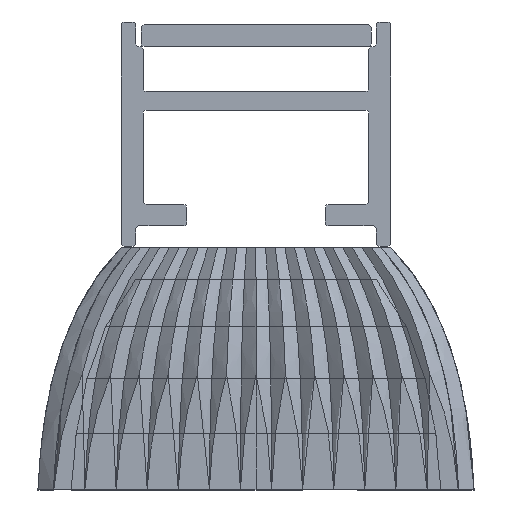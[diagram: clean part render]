
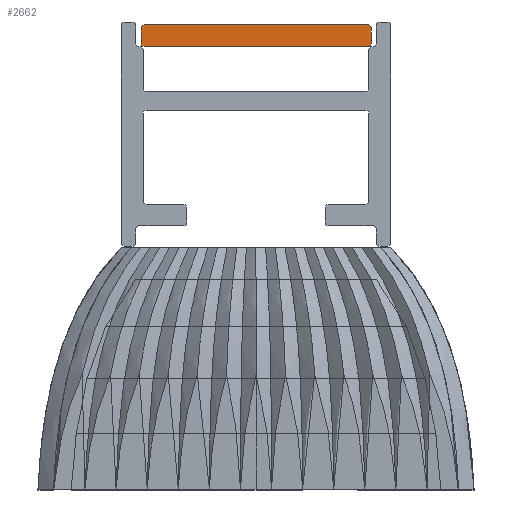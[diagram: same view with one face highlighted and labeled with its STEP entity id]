
A CAD part, front view. The second image highlights one B-rep face of the part: STEP entity #2662.
In plain terms, the highlighted planar face has unit normal (0, -1, 0).
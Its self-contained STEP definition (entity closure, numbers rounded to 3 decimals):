
#536=CIRCLE('',#14414,0.2);
#538=CIRCLE('',#14418,0.2);
#540=CIRCLE('',#14422,0.2);
#542=CIRCLE('',#14426,0.2);
#1856=FACE_OUTER_BOUND('',#5275,.T.);
#2662=ADVANCED_FACE('',(#1856),#2755,.F.);
#2755=PLANE('',#14428);
#5275=EDGE_LOOP('',(#9667,#9668,#9669,#9670,#9671,#9672,#9673,#9674));
#9667=ORIENTED_EDGE('',*,*,#13282,.F.);
#9668=ORIENTED_EDGE('',*,*,#13303,.F.);
#9669=ORIENTED_EDGE('',*,*,#13300,.F.);
#9670=ORIENTED_EDGE('',*,*,#13297,.F.);
#9671=ORIENTED_EDGE('',*,*,#13294,.F.);
#9672=ORIENTED_EDGE('',*,*,#13291,.F.);
#9673=ORIENTED_EDGE('',*,*,#13288,.F.);
#9674=ORIENTED_EDGE('',*,*,#13285,.F.);
#11087=VERTEX_POINT('',#41990);
#11088=VERTEX_POINT('',#41992);
#11090=VERTEX_POINT('',#41998);
#11092=VERTEX_POINT('',#42004);
#11094=VERTEX_POINT('',#42010);
#11096=VERTEX_POINT('',#42016);
#11098=VERTEX_POINT('',#42022);
#11100=VERTEX_POINT('',#42028);
#13282=EDGE_CURVE('',#11087,#11088,#13604,.T.);
#13285=EDGE_CURVE('',#11088,#11090,#536,.T.);
#13288=EDGE_CURVE('',#11090,#11092,#13608,.T.);
#13291=EDGE_CURVE('',#11092,#11094,#538,.T.);
#13294=EDGE_CURVE('',#11094,#11096,#13612,.T.);
#13297=EDGE_CURVE('',#11096,#11098,#540,.T.);
#13300=EDGE_CURVE('',#11098,#11100,#13616,.T.);
#13303=EDGE_CURVE('',#11100,#11087,#542,.T.);
#13604=LINE('',#41991,#13918);
#13608=LINE('',#42003,#13922);
#13612=LINE('',#42015,#13926);
#13616=LINE('',#42027,#13930);
#13918=VECTOR('',#15703,1.);
#13922=VECTOR('',#15715,1.);
#13926=VECTOR('',#15727,1.);
#13930=VECTOR('',#15739,1.);
#14414=AXIS2_PLACEMENT_3D('',#41997,#15709,#15710);
#14418=AXIS2_PLACEMENT_3D('',#42009,#15721,#15722);
#14422=AXIS2_PLACEMENT_3D('',#42021,#15733,#15734);
#14426=AXIS2_PLACEMENT_3D('',#42032,#15745,#15746);
#14428=AXIS2_PLACEMENT_3D('',#42034,#15749,#15750);
#15703=DIRECTION('',(0.,0.,1.));
#15709=DIRECTION('',(0.,1.,0.));
#15710=DIRECTION('',(0.,0.,-1.));
#15715=DIRECTION('',(1.,0.,0.));
#15721=DIRECTION('',(0.,1.,0.));
#15722=DIRECTION('',(0.,0.,-1.));
#15727=DIRECTION('',(0.,0.,-1.));
#15733=DIRECTION('',(0.,1.,0.));
#15734=DIRECTION('',(0.,0.,-1.));
#15739=DIRECTION('',(-1.,0.,0.));
#15745=DIRECTION('',(0.,1.,0.));
#15746=DIRECTION('',(0.,0.,-1.));
#15749=DIRECTION('',(0.,1.,0.));
#15750=DIRECTION('',(0.,0.,1.));
#41990=CARTESIAN_POINT('',(-7.95,-420.,0.2));
#41991=CARTESIAN_POINT('',(-7.95,-420.,0.2));
#41992=CARTESIAN_POINT('',(-7.95,-420.,1.3));
#41997=CARTESIAN_POINT('',(-7.75,-420.,1.3));
#41998=CARTESIAN_POINT('',(-7.75,-420.,1.5));
#42003=CARTESIAN_POINT('',(-7.75,-420.,1.5));
#42004=CARTESIAN_POINT('',(7.75,-420.,1.5));
#42009=CARTESIAN_POINT('',(7.75,-420.,1.3));
#42010=CARTESIAN_POINT('',(7.95,-420.,1.3));
#42015=CARTESIAN_POINT('',(7.95,-420.,1.3));
#42016=CARTESIAN_POINT('',(7.95,-420.,0.2));
#42021=CARTESIAN_POINT('',(7.75,-420.,0.2));
#42022=CARTESIAN_POINT('',(7.75,-420.,0.));
#42027=CARTESIAN_POINT('',(7.75,-420.,0.));
#42028=CARTESIAN_POINT('',(-7.75,-420.,0.));
#42032=CARTESIAN_POINT('',(-7.75,-420.,0.2));
#42034=CARTESIAN_POINT('',(-7.75,-420.,1.3));
